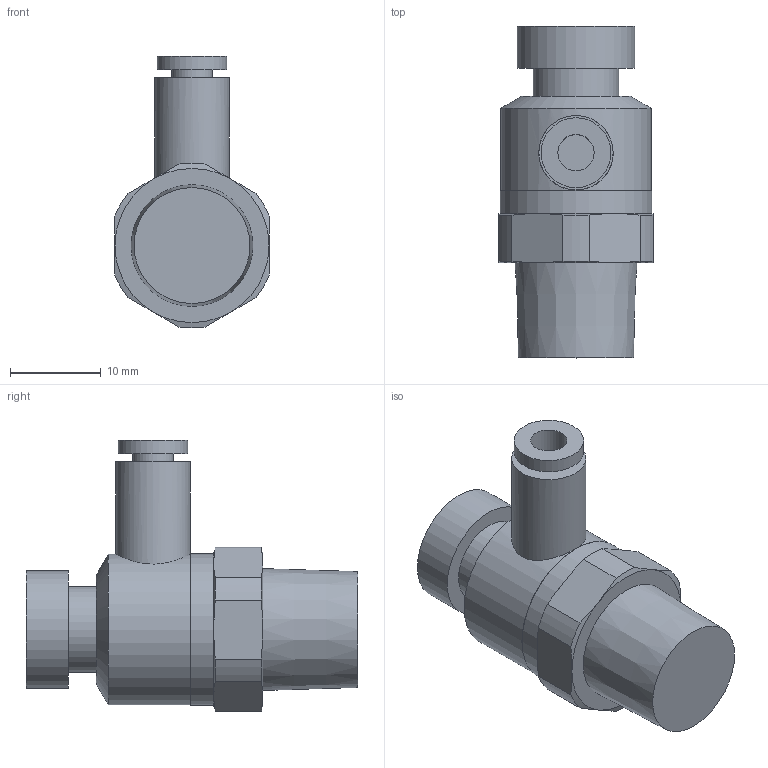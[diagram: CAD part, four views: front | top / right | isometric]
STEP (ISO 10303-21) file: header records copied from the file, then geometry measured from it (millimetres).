
FILE_DESCRIPTION(/* description */ ('STEP AP214'),/* implementation_level */ '2;1');
FILE_NAME(/* name */ 'AS2201F-02-04SA',/* time_stamp */ '2024-10-24T14:07:50+02:00',/* author */ ('License CC BY-ND 4.0'),/* organization */ ('CADENAS'),/* preprocessor_version */ 'ST-DEVELOPER v19.3',/* originating_system */ 'PARTsolutions',/* authorisation */ ' ');
FILE_SCHEMA (('INTEGRATED_CNC_SCHEMA','AP242_MANAGED_MODEL_BASED_3D_ENGINEERING_MIM_LF { 1 0 10303 442 3 1 4 }','AUTOMOTIVE_DESIGN {1 0 10303 214 3 1 1}'));
Length unit declared in the file: millimetre
Products named in the file (1): AS2201F-02-04SA
Bounding box: 17 x 36.6 x 29.99 mm (x, y, z)
Volume: 6776.6 mm3; surface area: 2785.7 mm2
Topology: 1 solids, 1 shells, 45 faces, 89 edges, 55 vertices
Faces by surface type: plane 17, cone 14, cylinder 14
Full cylindrical faces by diameter (mm): 4 x1, 4.5 x1, 7.7 x1, 8.2 x1, 9.45 x1, 13 x1, 16.6 x1, 16.7 x1
Entity records: 1181 total; most frequent: CARTESIAN_POINT 270, DIRECTION 188, ORIENTED_EDGE 158, AXIS2_PLACEMENT_3D 88, EDGE_CURVE 79, EDGE_LOOP 64, FACE_BOUND 64, VERTEX_POINT 55
